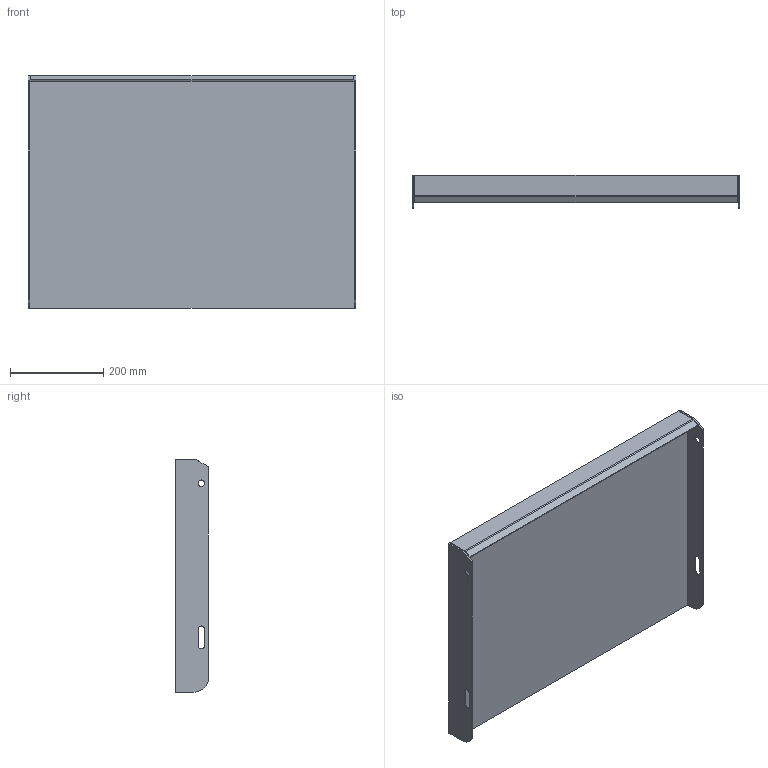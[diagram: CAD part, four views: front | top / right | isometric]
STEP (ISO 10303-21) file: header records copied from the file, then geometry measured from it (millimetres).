
FILE_DESCRIPTION (( 'STEP AP203' ), '1' );
FILE_NAME ('148807051, Plan TH6, 700x500, vfz.STEP', '2020-10-21T13:31:35', ( '' ), ( '' ), 'SwSTEP 2.0', 'SolidWorks 2019', '' );
FILE_SCHEMA (( 'CONFIG_CONTROL_DESIGN' ));
Length unit declared in the file: millimetre
Products named in the file (4): SW0000041829; SW0000041478; SW0000041378; 148807051, Plan TH6, 700x500, vfz
Assembly tree (4 placements, depth 2):
  148807051, Plan TH6, 700x500, vfz
    SW0000041829
    SW0000041378  x2
    SW0000041478
Bounding box: 700 x 70 x 497 mm (x, y, z)
Volume: 8895366.1 mm3; surface area: 975255 mm2
Topology: 4 solids, 4 shells, 59 faces, 142 edges, 92 vertices
Faces by surface type: plane 45, cylinder 14
Entity records: 1693 total; most frequent: DIRECTION 221, CARTESIAN_POINT 220, ORIENTED_EDGE 206, EDGE_CURVE 103, LINE 87, VECTOR 87, AXIS2_PLACEMENT_3D 67, VERTEX_POINT 66
